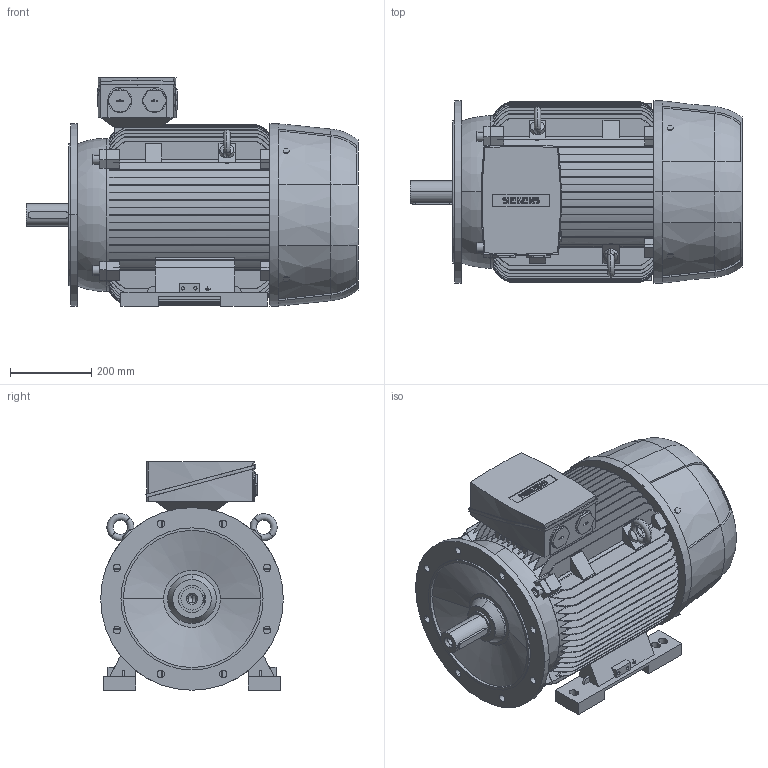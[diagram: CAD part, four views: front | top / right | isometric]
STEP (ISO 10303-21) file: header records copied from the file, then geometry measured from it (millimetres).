
FILE_DESCRIPTION(('STEP AP214'),'1');
FILE_NAME('cctmp_2D462BFC-627D-44B0-8531-9F7089DAF474_2021_11_16_20_59_5_823..stp','2021-11-16T19:59:06',('SIEMENS A&D'),('CADClick - www.CADClick.com'),'Spatial InterOp 3D',' ','unknown authorization');
FILE_SCHEMA(('AUTOMOTIVE_DESIGN'));
Length unit declared in the file: millimetre
Products named in the file (1): 2021_11_16__20-59-05-808
Bounding box: 818 x 450 x 563 mm (x, y, z)
Volume: 94694717.2 mm3; surface area: 3352274.6 mm2
Topology: 1 solids, 1 shells, 1123 faces, 3167 edges, 2096 vertices
Faces by surface type: plane 668, cylinder 281, torus 150, cone 24
Entity records: 56692 total; most frequent: CARTESIAN_POINT 19118, ORIENTED_EDGE 6330, DIRECTION 5457, EDGE_CURVE 3165, VERTEX_POINT 2096, LINE 1897, VECTOR 1897, AXIS2_PLACEMENT_3D 1780
